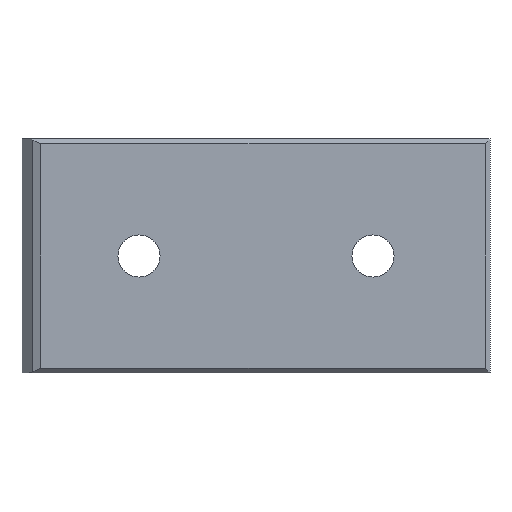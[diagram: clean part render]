
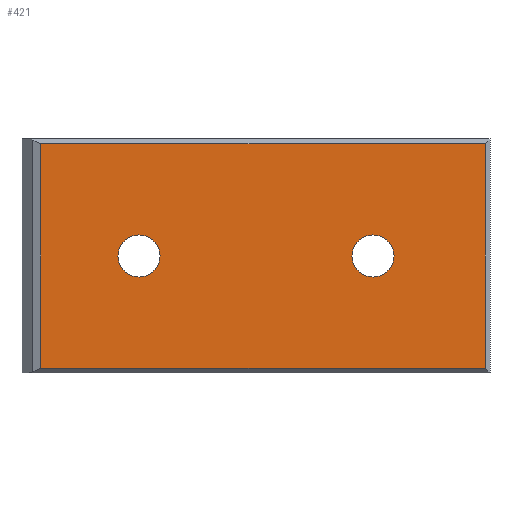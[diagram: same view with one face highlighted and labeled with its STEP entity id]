
A CAD part, front view. The second image highlights one B-rep face of the part: STEP entity #421.
In plain terms, the highlighted planar face has unit normal (0, -1, 0).
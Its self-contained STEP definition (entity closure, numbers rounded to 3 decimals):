
#27=FACE_BOUND('',#152,.T.);
#28=FACE_BOUND('',#153,.T.);
#40=LINE('',#656,#75);
#42=LINE('',#660,#77);
#46=LINE('',#668,#81);
#49=LINE('',#673,#84);
#75=VECTOR('',#537,10.);
#77=VECTOR('',#541,10.);
#81=VECTOR('',#547,10.);
#84=VECTOR('',#552,10.);
#108=PLANE('',#474);
#126=FACE_OUTER_BOUND('',#151,.T.);
#151=EDGE_LOOP('',(#330,#331,#332,#333));
#152=EDGE_LOOP('',(#334));
#153=EDGE_LOOP('',(#335));
#177=CIRCLE('',#475,4.5);
#178=CIRCLE('',#476,4.5);
#198=VERTEX_POINT('',#653);
#199=VERTEX_POINT('',#655);
#200=VERTEX_POINT('',#659);
#203=VERTEX_POINT('',#667);
#210=VERTEX_POINT('',#690);
#211=VERTEX_POINT('',#692);
#238=EDGE_CURVE('',#198,#199,#40,.T.);
#240=EDGE_CURVE('',#200,#198,#42,.T.);
#244=EDGE_CURVE('',#199,#203,#46,.T.);
#247=EDGE_CURVE('',#203,#200,#49,.T.);
#256=EDGE_CURVE('',#210,#210,#177,.T.);
#257=EDGE_CURVE('',#211,#211,#178,.T.);
#330=ORIENTED_EDGE('',*,*,#238,.F.);
#331=ORIENTED_EDGE('',*,*,#240,.F.);
#332=ORIENTED_EDGE('',*,*,#247,.F.);
#333=ORIENTED_EDGE('',*,*,#244,.F.);
#334=ORIENTED_EDGE('',*,*,#256,.T.);
#335=ORIENTED_EDGE('',*,*,#257,.T.);
#421=ADVANCED_FACE('',(#126,#27,#28),#108,.F.);
#474=AXIS2_PLACEMENT_3D('',#689,#565,#566);
#475=AXIS2_PLACEMENT_3D('',#691,#567,#568);
#476=AXIS2_PLACEMENT_3D('',#693,#569,#570);
#537=DIRECTION('',(1.,0.,0.));
#541=DIRECTION('',(0.,0.,1.));
#547=DIRECTION('',(0.,0.,-1.));
#552=DIRECTION('',(-1.,0.,0.));
#565=DIRECTION('center_axis',(0.,1.,0.));
#566=DIRECTION('ref_axis',(0.,0.,1.));
#567=DIRECTION('center_axis',(0.,1.,0.));
#568=DIRECTION('ref_axis',(1.,0.,0.));
#569=DIRECTION('center_axis',(0.,1.,0.));
#570=DIRECTION('ref_axis',(1.,0.,0.));
#653=CARTESIAN_POINT('',(4.,0.,49.));
#655=CARTESIAN_POINT('',(99.,0.,49.));
#656=CARTESIAN_POINT('',(25.,0.,49.));
#659=CARTESIAN_POINT('',(4.,0.,1.));
#660=CARTESIAN_POINT('',(4.,0.,18.75));
#667=CARTESIAN_POINT('',(99.,0.,1.));
#668=CARTESIAN_POINT('',(99.,0.,37.5));
#673=CARTESIAN_POINT('',(75.,0.,1.));
#689=CARTESIAN_POINT('Origin',(50.,0.,25.));
#690=CARTESIAN_POINT('',(20.5,0.,25.));
#691=CARTESIAN_POINT('Origin',(25.,0.,25.));
#692=CARTESIAN_POINT('',(70.5,0.,25.));
#693=CARTESIAN_POINT('Origin',(75.,0.,25.));
